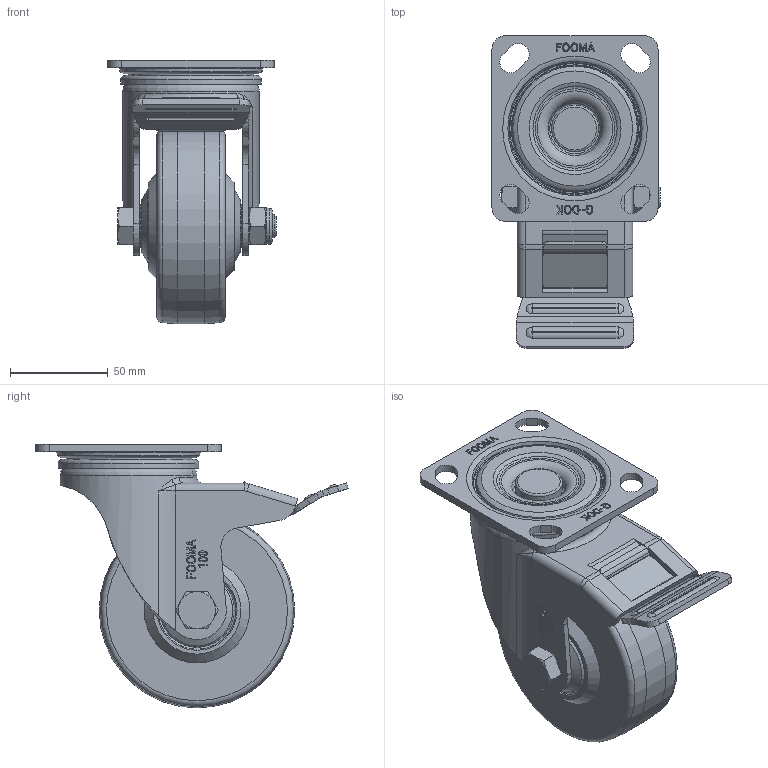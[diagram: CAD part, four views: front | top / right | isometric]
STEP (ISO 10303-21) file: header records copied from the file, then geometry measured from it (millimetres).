
FILE_DESCRIPTION(/* description */ (''),/* implementation_level */ '2;1');
FILE_NAME(/* name */ 'E:\★.DWG\★개발도면\PLM-SERIES(경중하중)-2016\홈페이지용\STEP\PLM-100-BSF-MCD.stp',/* time_stamp */ '2018-02-20T17:49:12+09:00',/* author */ ('장용하'),/* organization */ (''),/* preprocessor_version */ 'ST-DEVELOPER v16.13',/* originating_system */ 'Autodesk Inventor 2018',/* authorisation */ '');
FILE_SCHEMA (('AUTOMOTIVE_DESIGN { 1 0 10303 214 3 1 1 }'));
Length unit declared in the file: millimetre
Products named in the file (1): PLM-100-BSF-MCD ASSY_Shrinkwrap_1
Bounding box: 86 x 159.93 x 135 mm (x, y, z)
Volume: 415345.6 mm3; surface area: 91663.6 mm2
Topology: 1 solids, 1 shells, 829 faces, 2169 edges, 1401 vertices
Faces by surface type: plane 441, bspline 203, cylinder 98, torus 59, cone 28
Full cylindrical faces by diameter (mm): 12 x1, 18.5 x1, 22 x4, 24 x1, 24.4 x1, 36 x2, 38 x2, 40 x2, 53.029 x1, 54.5 x1, 64 x1, 64.418 x2, 70 x1, 70.6 x1, 72 x1, 100 x1
Entity records: 27320 total; most frequent: CARTESIAN_POINT 7461, ORIENTED_EDGE 4150, DIRECTION 3461, EDGE_CURVE 2073, VERTEX_POINT 1387, AXIS2_PLACEMENT_3D 1201, LINE 1059, VECTOR 1059
